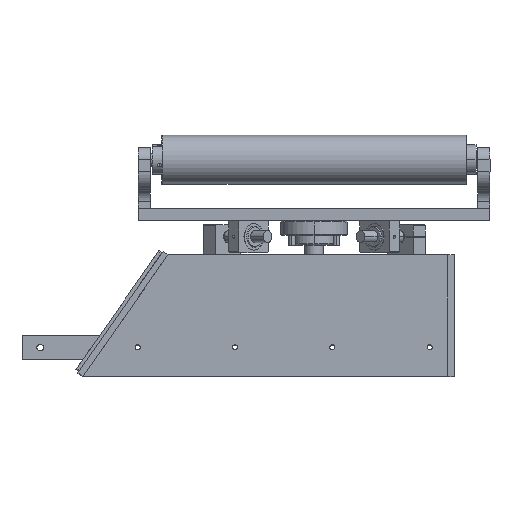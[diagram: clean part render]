
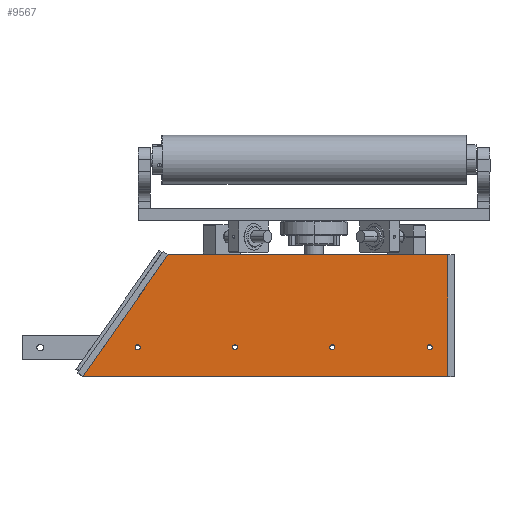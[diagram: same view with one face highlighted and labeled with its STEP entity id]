
A CAD part, top view. The second image highlights one B-rep face of the part: STEP entity #9567.
In plain terms, the highlighted planar face has unit normal (0, 0, 1).
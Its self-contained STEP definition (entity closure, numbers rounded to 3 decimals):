
#198 = CARTESIAN_POINT ( 'NONE',  ( 45., 24., 75. ) ) ;
#401 = DIRECTION ( 'NONE',  ( 0., 0., 1. ) ) ;
#452 = VERTEX_POINT ( 'NONE', #16653 ) ;
#2496 = CARTESIAN_POINT ( 'NONE',  ( 205., 24., 75. ) ) ;
#3543 = FACE_BOUND ( 'NONE', #34486, .T. ) ;
#3678 = DIRECTION ( 'NONE',  ( 1., 0., 0. ) ) ;
#4305 = AXIS2_PLACEMENT_3D ( 'NONE', #41170, #20482, #44652 ) ;
#5006 = CARTESIAN_POINT ( 'NONE',  ( 70.021, 100., 75. ) ) ;
#5267 = DIRECTION ( 'NONE',  ( 0., 0., 1. ) ) ;
#5497 = DIRECTION ( 'NONE',  ( 0., 0., 1. ) ) ;
#5600 = VECTOR ( 'NONE', #29496, 1000. ) ;
#5952 = DIRECTION ( 'NONE',  ( 1., 0., 0. ) ) ;
#6290 = CIRCLE ( 'NONE', #32203, 2.1 ) ;
#6367 = AXIS2_PLACEMENT_3D ( 'NONE', #21202, #401, #24684 ) ;
#7078 = ORIENTED_EDGE ( 'NONE', *, *, #32627, .F. ) ;
#7965 = CARTESIAN_POINT ( 'NONE',  ( 287.1, 24., 75. ) ) ;
#8315 = AXIS2_PLACEMENT_3D ( 'NONE', #198, #24456, #3678 ) ;
#8529 = CARTESIAN_POINT ( 'NONE',  ( 202.9, 24., 75. ) ) ;
#8969 = DIRECTION ( 'NONE',  ( 0., 0., 1. ) ) ;
#9250 = EDGE_CURVE ( 'NONE', #18448, #35206, #6290, .T. ) ;
#9567 = ADVANCED_FACE ( 'NONE', ( #12815, #40440, #13899, #3543, #39355 ), #27581, .T. ) ;
#10098 = VECTOR ( 'NONE', #13423, 1000. ) ;
#12250 = EDGE_CURVE ( 'NONE', #33782, #452, #27454, .T. ) ;
#12643 = DIRECTION ( 'NONE',  ( 0., 0., 1. ) ) ;
#12740 = ORIENTED_EDGE ( 'NONE', *, *, #17123, .F. ) ;
#12793 = VECTOR ( 'NONE', #18933, 1000. ) ;
#12815 = FACE_BOUND ( 'NONE', #16563, .T. ) ;
#13168 = AXIS2_PLACEMENT_3D ( 'NONE', #2496, #26732, #5952 ) ;
#13200 = CIRCLE ( 'NONE', #8315, 2.1 ) ;
#13423 = DIRECTION ( 'NONE',  ( 0., 1., 0. ) ) ;
#13860 = DIRECTION ( 'NONE',  ( 1., 0., 0. ) ) ;
#13880 = LINE ( 'NONE', #43133, #12793 ) ;
#13899 = FACE_BOUND ( 'NONE', #43379, .T. ) ;
#14861 = EDGE_LOOP ( 'NONE', ( #39541, #23576 ) ) ;
#15374 = AXIS2_PLACEMENT_3D ( 'NONE', #26050, #5267, #29524 ) ;
#15564 = EDGE_CURVE ( 'NONE', #29919, #33134, #13200, .T. ) ;
#15658 = VECTOR ( 'NONE', #39726, 1000. ) ;
#16096 = CARTESIAN_POINT ( 'NONE',  ( 300., 0., 75. ) ) ;
#16286 = CARTESIAN_POINT ( 'NONE',  ( 42.9, 24., 75. ) ) ;
#16563 = EDGE_LOOP ( 'NONE', ( #7078, #23005 ) ) ;
#16653 = CARTESIAN_POINT ( 'NONE',  ( 300., 100., 75. ) ) ;
#16893 = CARTESIAN_POINT ( 'NONE',  ( 300., 0., 75. ) ) ;
#17123 = EDGE_CURVE ( 'NONE', #35206, #18448, #44918, .T. ) ;
#17564 = ORIENTED_EDGE ( 'NONE', *, *, #41298, .T. ) ;
#17683 = ORIENTED_EDGE ( 'NONE', *, *, #15564, .F. ) ;
#18448 = VERTEX_POINT ( 'NONE', #31354 ) ;
#18933 = DIRECTION ( 'NONE',  ( 1., 0., 0. ) ) ;
#19668 = CIRCLE ( 'NONE', #15374, 2.1 ) ;
#19680 = ORIENTED_EDGE ( 'NONE', *, *, #9250, .F. ) ;
#19941 = EDGE_CURVE ( 'NONE', #39853, #33782, #13880, .T. ) ;
#19955 = CARTESIAN_POINT ( 'NONE',  ( 282.9, 24., 75. ) ) ;
#20461 = VERTEX_POINT ( 'NONE', #7965 ) ;
#20482 = DIRECTION ( 'NONE',  ( 0., 0., 1. ) ) ;
#21202 = CARTESIAN_POINT ( 'NONE',  ( 45., 24., 75. ) ) ;
#21288 = VERTEX_POINT ( 'NONE', #40398 ) ;
#22389 = CARTESIAN_POINT ( 'NONE',  ( 47.1, 24., 75. ) ) ;
#23005 = ORIENTED_EDGE ( 'NONE', *, *, #27763, .F. ) ;
#23122 = EDGE_CURVE ( 'NONE', #23504, #21288, #43987, .T. ) ;
#23193 = AXIS2_PLACEMENT_3D ( 'NONE', #33351, #12643, #36829 ) ;
#23504 = VERTEX_POINT ( 'NONE', #8529 ) ;
#23576 = ORIENTED_EDGE ( 'NONE', *, *, #23122, .F. ) ;
#23703 = CIRCLE ( 'NONE', #6367, 2.1 ) ;
#24456 = DIRECTION ( 'NONE',  ( 0., 0., 1. ) ) ;
#24684 = DIRECTION ( 'NONE',  ( 1., 0., 0. ) ) ;
#25604 = EDGE_CURVE ( 'NONE', #36634, #39853, #28093, .T. ) ;
#26050 = CARTESIAN_POINT ( 'NONE',  ( 205., 24., 75. ) ) ;
#26276 = CARTESIAN_POINT ( 'NONE',  ( 125., 24., 75. ) ) ;
#26732 = DIRECTION ( 'NONE',  ( 0., 0., 1. ) ) ;
#26938 = CIRCLE ( 'NONE', #23193, 2.1 ) ;
#27454 = LINE ( 'NONE', #16893, #10098 ) ;
#27581 = PLANE ( 'NONE',  #42927 ) ;
#27763 = EDGE_CURVE ( 'NONE', #42698, #20461, #26938, .T. ) ;
#27767 = CARTESIAN_POINT ( 'NONE',  ( 70.021, 100., 75. ) ) ;
#27933 = CARTESIAN_POINT ( 'NONE',  ( 0., 0., 75. ) ) ;
#28093 = LINE ( 'NONE', #5006, #15658 ) ;
#28472 = AXIS2_PLACEMENT_3D ( 'NONE', #29710, #8969, #33185 ) ;
#28761 = EDGE_CURVE ( 'NONE', #33134, #29919, #23703, .T. ) ;
#29496 = DIRECTION ( 'NONE',  ( -1., 0., 0. ) ) ;
#29524 = DIRECTION ( 'NONE',  ( 1., 0., 0. ) ) ;
#29710 = CARTESIAN_POINT ( 'NONE',  ( 125., 24., 75. ) ) ;
#29745 = DIRECTION ( 'NONE',  ( 1., 0., 0. ) ) ;
#29919 = VERTEX_POINT ( 'NONE', #16286 ) ;
#31354 = CARTESIAN_POINT ( 'NONE',  ( 122.9, 24., 75. ) ) ;
#32203 = AXIS2_PLACEMENT_3D ( 'NONE', #26276, #5497, #29745 ) ;
#32601 = CIRCLE ( 'NONE', #4305, 2.1 ) ;
#32627 = EDGE_CURVE ( 'NONE', #20461, #42698, #32601, .T. ) ;
#33134 = VERTEX_POINT ( 'NONE', #22389 ) ;
#33185 = DIRECTION ( 'NONE',  ( 1., 0., 0. ) ) ;
#33340 = ORIENTED_EDGE ( 'NONE', *, *, #12250, .T. ) ;
#33351 = CARTESIAN_POINT ( 'NONE',  ( 285., 24., 75. ) ) ;
#33782 = VERTEX_POINT ( 'NONE', #16096 ) ;
#33787 = ORIENTED_EDGE ( 'NONE', *, *, #28761, .F. ) ;
#34486 = EDGE_LOOP ( 'NONE', ( #33787, #17683 ) ) ;
#34542 = DIRECTION ( 'NONE',  ( 0., 0., 1. ) ) ;
#35206 = VERTEX_POINT ( 'NONE', #42411 ) ;
#35316 = ORIENTED_EDGE ( 'NONE', *, *, #19941, .T. ) ;
#36464 = CARTESIAN_POINT ( 'NONE',  ( 300., 100., 75. ) ) ;
#36634 = VERTEX_POINT ( 'NONE', #27767 ) ;
#36829 = DIRECTION ( 'NONE',  ( 1., 0., 0. ) ) ;
#37885 = CARTESIAN_POINT ( 'NONE',  ( 0., 0., 75. ) ) ;
#39355 = FACE_OUTER_BOUND ( 'NONE', #41761, .T. ) ;
#39541 = ORIENTED_EDGE ( 'NONE', *, *, #41956, .F. ) ;
#39726 = DIRECTION ( 'NONE',  ( -0.574, -0.819, 0. ) ) ;
#39853 = VERTEX_POINT ( 'NONE', #27933 ) ;
#40398 = CARTESIAN_POINT ( 'NONE',  ( 207.1, 24., 75. ) ) ;
#40440 = FACE_BOUND ( 'NONE', #14861, .T. ) ;
#41170 = CARTESIAN_POINT ( 'NONE',  ( 285., 24., 75. ) ) ;
#41298 = EDGE_CURVE ( 'NONE', #452, #36634, #43532, .T. ) ;
#41761 = EDGE_LOOP ( 'NONE', ( #42024, #35316, #33340, #17564 ) ) ;
#41956 = EDGE_CURVE ( 'NONE', #21288, #23504, #19668, .T. ) ;
#42024 = ORIENTED_EDGE ( 'NONE', *, *, #25604, .T. ) ;
#42411 = CARTESIAN_POINT ( 'NONE',  ( 127.1, 24., 75. ) ) ;
#42698 = VERTEX_POINT ( 'NONE', #19955 ) ;
#42927 = AXIS2_PLACEMENT_3D ( 'NONE', #37885, #34542, #13860 ) ;
#43133 = CARTESIAN_POINT ( 'NONE',  ( 0., 0., 75. ) ) ;
#43379 = EDGE_LOOP ( 'NONE', ( #12740, #19680 ) ) ;
#43532 = LINE ( 'NONE', #36464, #5600 ) ;
#43987 = CIRCLE ( 'NONE', #13168, 2.1 ) ;
#44652 = DIRECTION ( 'NONE',  ( 1., 0., 0. ) ) ;
#44918 = CIRCLE ( 'NONE', #28472, 2.1 ) ;
